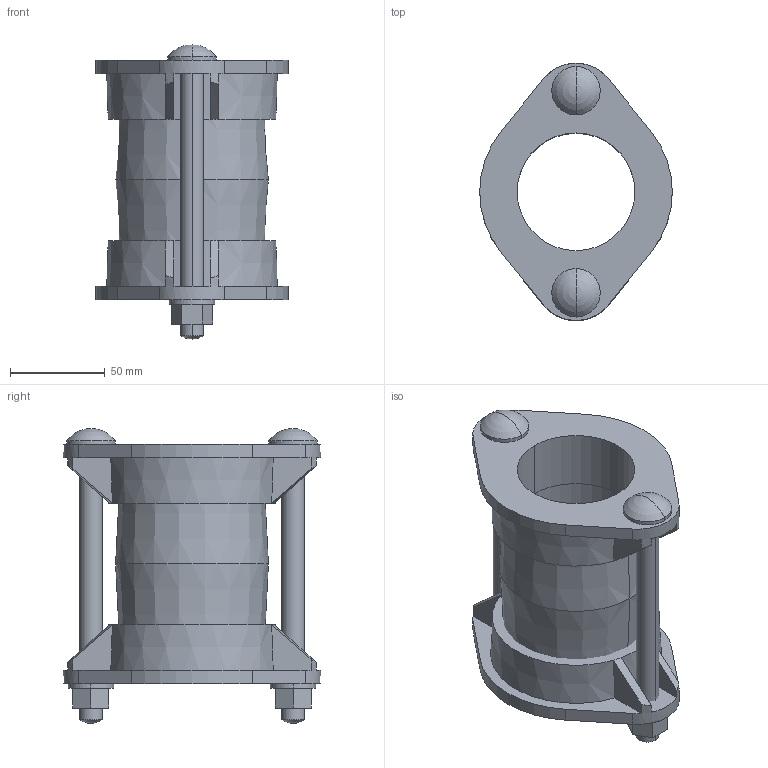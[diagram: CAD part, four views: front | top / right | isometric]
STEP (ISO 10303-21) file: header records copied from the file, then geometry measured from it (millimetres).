
FILE_DESCRIPTION((''),'2;1');
FILE_NAME('FLEXLOCK_COUPLING_60-3_ASM','2020-07-29T',('MReader'),(''),'CREO PARAMETRIC BY PTC INC, 2016130','CREO PARAMETRIC BY PTC INC, 2016130','');
FILE_SCHEMA(('CONFIG_CONTROL_DESIGN'));
Length unit declared in the file: millimetre
Products named in the file (5): FLEXLOCK_SLEEVE_60-3; FLEXLOCK_ENDRING_60-3_AF0; FLEXLOCK_ENDRING_60-3; FLEXLOCK_M12_145; FLEXLOCK_COUPLING_60-3_ASM
Assembly tree (5 placements, depth 2):
  FLEXLOCK_COUPLING_60-3_ASM
    FLEXLOCK_SLEEVE_60-3
    FLEXLOCK_ENDRING_60-3_AF0
    FLEXLOCK_ENDRING_60-3
    FLEXLOCK_M12_145  x2
Bounding box: 101.5 x 135.5 x 155.33 mm (x, y, z)
Volume: 434231.8 mm3; surface area: 114479.8 mm2
Topology: 5 solids, 5 shells, 110 faces, 268 edges, 166 vertices
Faces by surface type: plane 56, cylinder 26, cone 20, sphere 8
Entity records: 3181 total; most frequent: CARTESIAN_POINT 679, DIRECTION 512, ORIENTED_EDGE 488, EDGE_CURVE 244, AXIS2_PLACEMENT_3D 197, VERTEX_POINT 156, VECTOR 118, LINE 118
